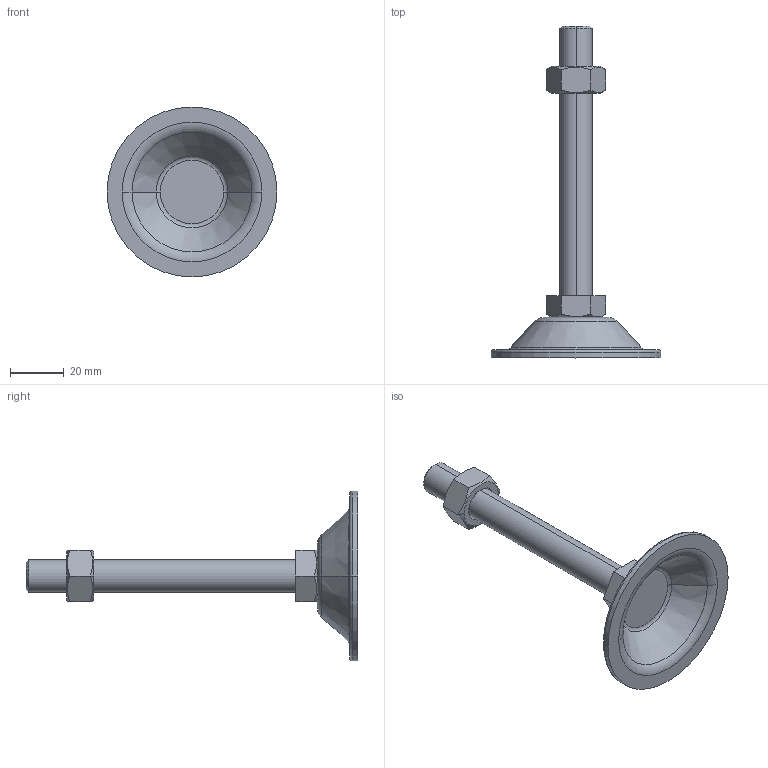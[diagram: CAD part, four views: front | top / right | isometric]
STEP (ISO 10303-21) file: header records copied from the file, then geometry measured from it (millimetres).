
FILE_DESCRIPTION (( 'STEP AP214' ), '1' );
FILE_NAME ('BL63-M12-100.step', '2021-01-06T05:37:56', ( '' ), ( '' ), 'SwSTEP 2.0', 'SolidWorks 2019', '' );
FILE_SCHEMA (( 'AUTOMOTIVE_DESIGN' ));
Length unit declared in the file: millimetre
Products named in the file (1): BL63-M12-100
Bounding box: 63 x 123 x 63 mm (x, y, z)
Volume: 26772.9 mm3; surface area: 14129.2 mm2
Topology: 3 solids, 3 shells, 53 faces, 110 edges, 66 vertices
Faces by surface type: plane 21, cone 16, torus 10, cylinder 6
Entity records: 1618 total; most frequent: CARTESIAN_POINT 428, DIRECTION 252, ORIENTED_EDGE 220, EDGE_CURVE 110, AXIS2_PLACEMENT_3D 106, VERTEX_POINT 66, EDGE_LOOP 58, ADVANCED_FACE 53
